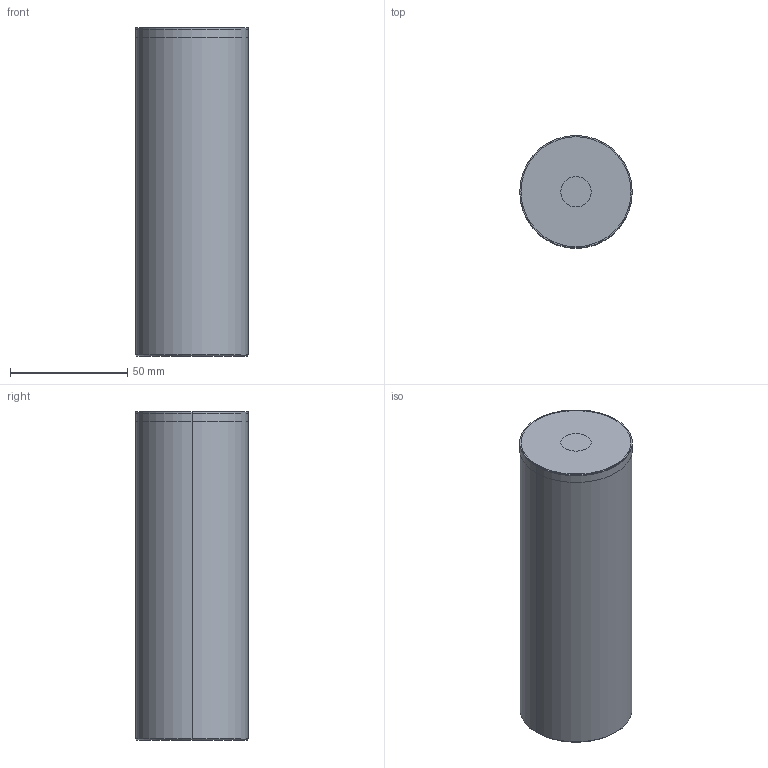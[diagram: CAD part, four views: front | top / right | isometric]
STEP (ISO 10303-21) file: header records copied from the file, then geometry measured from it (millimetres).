
FILE_DESCRIPTION (( 'STEP AP214' ), '1' );
FILE_NAME ('BruyRubio_BRSP_48_X_140.STEP', '2020-01-15T09:37:16', ( '' ), ( '' ), 'SwSTEP 2.0', 'SolidWorks 2017', '' );
FILE_SCHEMA (( 'AUTOMOTIVE_DESIGN' ));
Length unit declared in the file: millimetre
Products named in the file (3): Einbauraum_bbea2b; BRSP 48 X 140_1e9773; BruyRubio_BRSP_48_X_140
Assembly tree (2 placements, depth 2):
  BruyRubio_BRSP_48_X_140
    Einbauraum_bbea2b
    BRSP 48 X 140_1e9773
Bounding box: 48 x 48 x 140.07 mm (x, y, z)
Volume: 239459.6 mm3; surface area: 34601.7 mm2
Topology: 2 solids, 2 shells, 17 faces, 32 edges, 20 vertices
Faces by surface type: cylinder 8, plane 5, cone 4
Entity records: 735 total; most frequent: DIRECTION 96, CARTESIAN_POINT 74, ORIENTED_EDGE 64, AXIS2_PLACEMENT_3D 42, EDGE_CURVE 32, UNCERTAINTY_MEASURE_WITH_UNIT 24, FILL_AREA_STYLE 21, MECHANICAL_DESIGN_GEOMETRIC_PRESENTATION_REPRESENTATION 21
